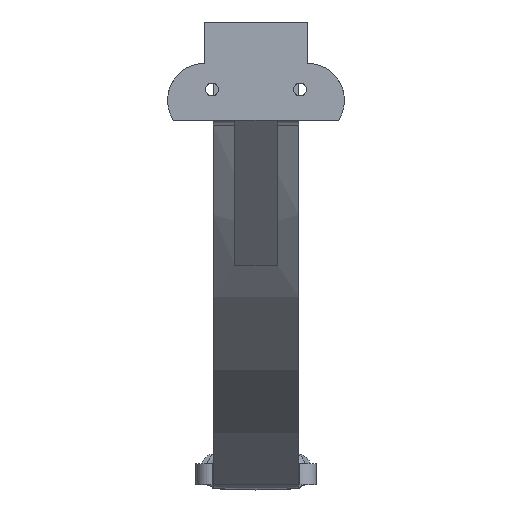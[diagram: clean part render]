
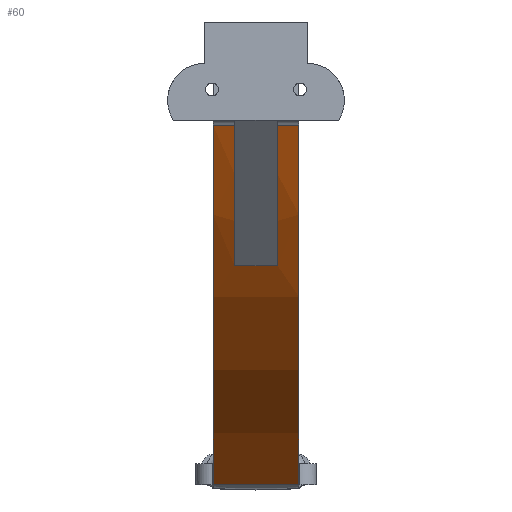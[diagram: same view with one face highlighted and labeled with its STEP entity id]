
A CAD part, left-side view. The second image highlights one B-rep face of the part: STEP entity #60.
In plain terms, the highlighted cylindrical face has radius 191.656 mm (diameter 383.313 mm), a partial arc.
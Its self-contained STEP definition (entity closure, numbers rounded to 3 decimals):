
#60 = ADVANCED_FACE ( 'NONE', ( #1753 ), #2606, .T. ) ;
#315 = CARTESIAN_POINT ( 'NONE',  ( 105.853, 15., -96.687 ) ) ;
#348 = VECTOR ( 'NONE', #3354, 1000. ) ;
#442 = DIRECTION ( 'NONE',  ( 0., 0., -1. ) ) ;
#455 = ORIENTED_EDGE ( 'NONE', *, *, #2500, .T. ) ;
#540 = VERTEX_POINT ( 'NONE', #4565 ) ;
#636 = VERTEX_POINT ( 'NONE', #3849 ) ;
#760 = EDGE_CURVE ( 'NONE', #1768, #2622, #1611, .T. ) ;
#877 = AXIS2_PLACEMENT_3D ( 'NONE', #3917, #4773, #2178 ) ;
#898 = VECTOR ( 'NONE', #1453, 1000. ) ;
#922 = AXIS2_PLACEMENT_3D ( 'NONE', #5714, #4683, #1136 ) ;
#998 = CARTESIAN_POINT ( 'NONE',  ( 84.371, 5., -63.987 ) ) ;
#1136 = DIRECTION ( 'NONE',  ( 0., 0., -1. ) ) ;
#1327 = EDGE_CURVE ( 'NONE', #4957, #4534, #2717, .T. ) ;
#1453 = DIRECTION ( 'NONE',  ( 0., -1., 0. ) ) ;
#1566 = EDGE_CURVE ( 'NONE', #4542, #1768, #4965, .T. ) ;
#1586 = LINE ( 'NONE', #3440, #4760 ) ;
#1611 = CIRCLE ( 'NONE', #1796, 191.656 ) ;
#1638 = CIRCLE ( 'NONE', #877, 191.656 ) ;
#1656 = CARTESIAN_POINT ( 'NONE',  ( 170., 20., -147.7 ) ) ;
#1693 = VERTEX_POINT ( 'NONE', #315 ) ;
#1730 = CIRCLE ( 'NONE', #2953, 191.656 ) ;
#1753 = FACE_OUTER_BOUND ( 'NONE', #1892, .T. ) ;
#1768 = VERTEX_POINT ( 'NONE', #998 ) ;
#1794 = DIRECTION ( 'NONE',  ( 0., 1., 0. ) ) ;
#1796 = AXIS2_PLACEMENT_3D ( 'NONE', #2374, #4583, #2797 ) ;
#1892 = EDGE_LOOP ( 'NONE', ( #2314, #455, #4487, #2301, #5653, #5601, #5007, #4437 ) ) ;
#2052 = CARTESIAN_POINT ( 'NONE',  ( 84.371, 20., -63.987 ) ) ;
#2157 = CARTESIAN_POINT ( 'NONE',  ( 254.459, 20., 24.343 ) ) ;
#2178 = DIRECTION ( 'NONE',  ( 0., 0., -1. ) ) ;
#2301 = ORIENTED_EDGE ( 'NONE', *, *, #760, .T. ) ;
#2314 = ORIENTED_EDGE ( 'NONE', *, *, #1327, .T. ) ;
#2332 = CARTESIAN_POINT ( 'NONE',  ( 170., 20., -147.7 ) ) ;
#2352 = EDGE_CURVE ( 'NONE', #4957, #636, #1638, .T. ) ;
#2374 = CARTESIAN_POINT ( 'NONE',  ( 254.459, 5., 24.343 ) ) ;
#2500 = EDGE_CURVE ( 'NONE', #4534, #4542, #1730, .T. ) ;
#2606 = CYLINDRICAL_SURFACE ( 'NONE', #2894, 191.656 ) ;
#2622 = VERTEX_POINT ( 'NONE', #3343 ) ;
#2674 = CARTESIAN_POINT ( 'NONE',  ( 84.371, 20., -63.987 ) ) ;
#2717 = LINE ( 'NONE', #2332, #898 ) ;
#2797 = DIRECTION ( 'NONE',  ( 0., 0., -1. ) ) ;
#2894 = AXIS2_PLACEMENT_3D ( 'NONE', #2157, #4859, #3925 ) ;
#2953 = AXIS2_PLACEMENT_3D ( 'NONE', #3189, #3569, #442 ) ;
#3064 = CARTESIAN_POINT ( 'NONE',  ( 170., 0., -147.7 ) ) ;
#3189 = CARTESIAN_POINT ( 'NONE',  ( 254.459, 0., 24.343 ) ) ;
#3240 = CARTESIAN_POINT ( 'NONE',  ( 84.371, 0., -63.987 ) ) ;
#3343 = CARTESIAN_POINT ( 'NONE',  ( 105.853, 5., -96.687 ) ) ;
#3354 = DIRECTION ( 'NONE',  ( 0., 1., 0. ) ) ;
#3379 = DIRECTION ( 'NONE',  ( 0., 1., 0. ) ) ;
#3440 = CARTESIAN_POINT ( 'NONE',  ( 105.853, 20., -96.687 ) ) ;
#3569 = DIRECTION ( 'NONE',  ( 0., 1., 0. ) ) ;
#3739 = CIRCLE ( 'NONE', #922, 191.656 ) ;
#3849 = CARTESIAN_POINT ( 'NONE',  ( 84.371, 20., -63.987 ) ) ;
#3917 = CARTESIAN_POINT ( 'NONE',  ( 254.459, 20., 24.343 ) ) ;
#3925 = DIRECTION ( 'NONE',  ( 0., 0., -1. ) ) ;
#3965 = EDGE_CURVE ( 'NONE', #540, #636, #4198, .T. ) ;
#4098 = EDGE_CURVE ( 'NONE', #2622, #1693, #1586, .T. ) ;
#4174 = VECTOR ( 'NONE', #1794, 1000. ) ;
#4198 = LINE ( 'NONE', #2052, #348 ) ;
#4437 = ORIENTED_EDGE ( 'NONE', *, *, #2352, .F. ) ;
#4487 = ORIENTED_EDGE ( 'NONE', *, *, #1566, .T. ) ;
#4534 = VERTEX_POINT ( 'NONE', #3064 ) ;
#4542 = VERTEX_POINT ( 'NONE', #3240 ) ;
#4565 = CARTESIAN_POINT ( 'NONE',  ( 84.371, 15., -63.987 ) ) ;
#4583 = DIRECTION ( 'NONE',  ( 0., -1., 0. ) ) ;
#4683 = DIRECTION ( 'NONE',  ( 0., -1., 0. ) ) ;
#4760 = VECTOR ( 'NONE', #3379, 1000. ) ;
#4773 = DIRECTION ( 'NONE',  ( 0., 1., 0. ) ) ;
#4859 = DIRECTION ( 'NONE',  ( 0., -1., 0. ) ) ;
#4957 = VERTEX_POINT ( 'NONE', #1656 ) ;
#4965 = LINE ( 'NONE', #2674, #4174 ) ;
#5007 = ORIENTED_EDGE ( 'NONE', *, *, #3965, .T. ) ;
#5076 = EDGE_CURVE ( 'NONE', #540, #1693, #3739, .T. ) ;
#5601 = ORIENTED_EDGE ( 'NONE', *, *, #5076, .F. ) ;
#5653 = ORIENTED_EDGE ( 'NONE', *, *, #4098, .T. ) ;
#5714 = CARTESIAN_POINT ( 'NONE',  ( 254.459, 15., 24.343 ) ) ;
